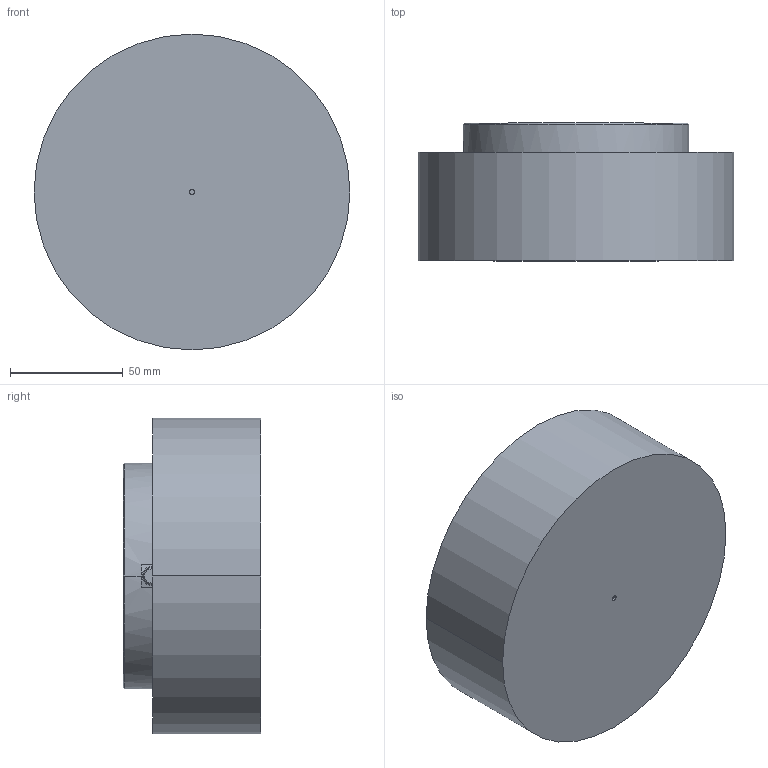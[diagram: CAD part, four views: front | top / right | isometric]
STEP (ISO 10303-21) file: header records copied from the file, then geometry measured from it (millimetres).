
FILE_DESCRIPTION((''),'2;1');
FILE_NAME('S34G102.stp','2020-09-17T15:16:23',(''),(''),'AutoCAD STEP 2000i','AutoCAD 2000i',', , ');
FILE_SCHEMA(('CONFIG_CONTROL_DESIGN'));
Length unit declared in the file: millimetre
Products named in the file (4): DRAWING1; MOLD BODY 102G34; NOZZLE S102G34; RING 34-2018
Assembly tree (3 placements, depth 2):
  DRAWING1
    MOLD BODY 102G34
    NOZZLE S102G34
    RING 34-2018
Bounding box: 140 x 61 x 140 mm (x, y, z)
Volume: 824686.4 mm3; surface area: 87318.2 mm2
Topology: 3 solids, 3 shells, 156 faces, 371 edges, 235 vertices
Faces by surface type: cylinder 60, cone 44, plane 28, bspline 14, torus 10
Entity records: 5249 total; most frequent: CARTESIAN_POINT 1335, DIRECTION 897, ORIENTED_EDGE 738, AXIS2_PLACEMENT_3D 390, EDGE_CURVE 369, CIRCLE 244, VERTEX_POINT 235, EDGE_LOOP 184
